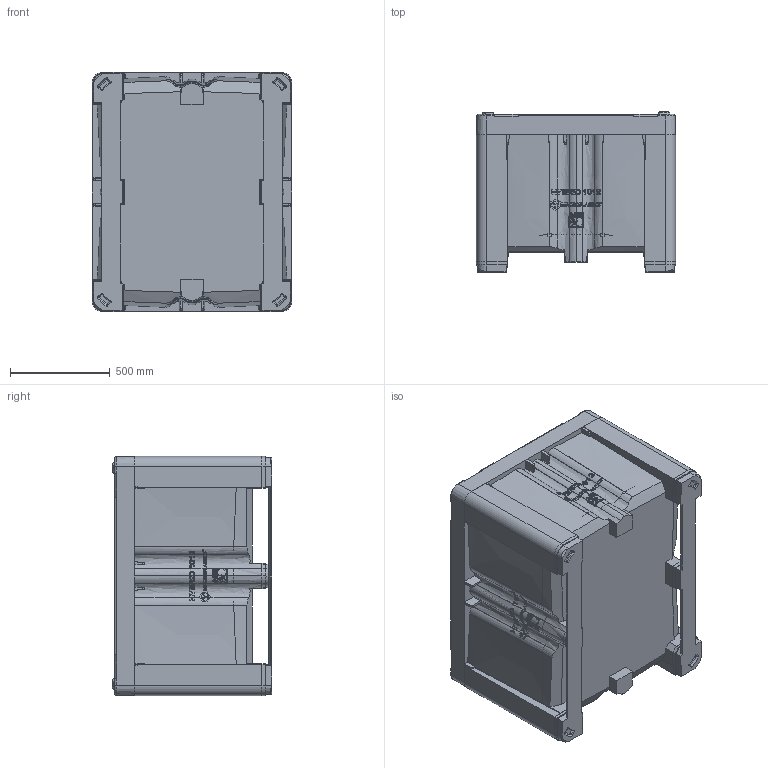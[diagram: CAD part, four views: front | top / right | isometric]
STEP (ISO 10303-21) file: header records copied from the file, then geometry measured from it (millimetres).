
FILE_DESCRIPTION (( 'STEP AP214' ), '1' );
FILE_NAME ('1110xxxxxxxx 1012-790 Hybrid Block LongFoot 4way.STEP', '2018-08-24T21:10:12', ( '' ), ( '' ), 'SwSTEP 2.0', 'SolidWorks 2018', '' );
FILE_SCHEMA (( 'AUTOMOTIVE_DESIGN' ));
Products named in the file (1): 1110xxxxxxxx 1012-790 Hybrid Block LongFoot 4way
Bounding box: 1000 x 802.5 x 1200 mm (x, y, z)
Volume: 111107774.7 mm3; surface area: 9985527.7 mm2
Topology: 7 solids, 7 shells, 6167 faces, 16932 edges, 11259 vertices
Faces by surface type: plane 3021, bspline 2652, cylinder 464, sphere 18, cone 8, torus 4
Entity records: 334007 total; most frequent: CARTESIAN_POINT 204530, ORIENTED_EDGE 33816, EDGE_CURVE 16908, DIRECTION 14352, VERTEX_POINT 11255, B_SPLINE_CURVE_WITH_KNOTS 9692, LINE 7000, VECTOR 7000
